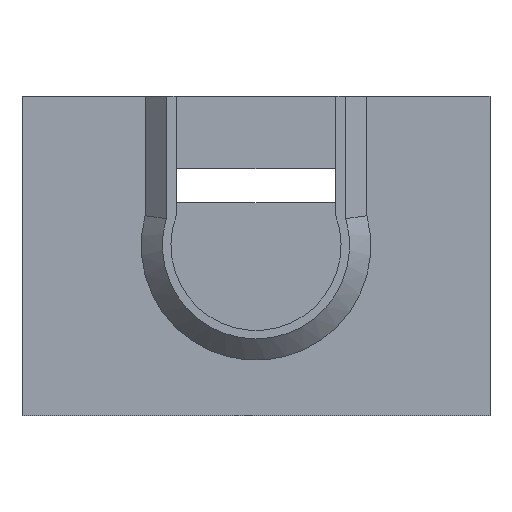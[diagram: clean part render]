
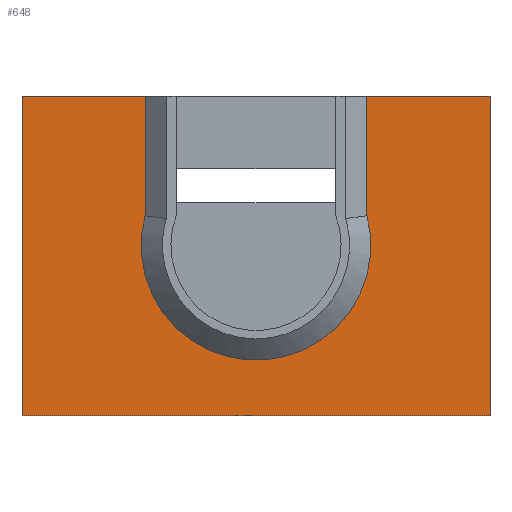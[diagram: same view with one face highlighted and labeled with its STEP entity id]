
A CAD part, left-side view. The second image highlights one B-rep face of the part: STEP entity #648.
In plain terms, the highlighted planar face has unit normal (-1, 0, 0).
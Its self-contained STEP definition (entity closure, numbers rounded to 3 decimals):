
#22 = VERTEX_POINT('',#23);
#23 = CARTESIAN_POINT('',(-14.,5.218,5.));
#32 = PLANE('',#33);
#33 = AXIS2_PLACEMENT_3D('',#34,#35,#36);
#34 = CARTESIAN_POINT('',(-6.652,0.,5.));
#35 = DIRECTION('',(0.,0.,1.));
#36 = DIRECTION('',(0.,1.,0.));
#44 = PLANE('',#45);
#45 = AXIS2_PLACEMENT_3D('',#46,#47,#48);
#46 = CARTESIAN_POINT('',(-14.,5.218,5.));
#47 = DIRECTION('',(-0.,-1.,-0.));
#48 = DIRECTION('',(0.,0.,-1.));
#355 = VERTEX_POINT('',#356);
#356 = CARTESIAN_POINT('',(-14.,-5.218,5.));
#370 = PLANE('',#371);
#371 = AXIS2_PLACEMENT_3D('',#372,#373,#374);
#372 = CARTESIAN_POINT('',(-14.,-5.218,5.));
#373 = DIRECTION('',(-0.,-1.,-0.));
#374 = DIRECTION('',(0.,0.,-1.));
#382 = EDGE_CURVE('',#355,#383,#385,.T.);
#383 = VERTEX_POINT('',#384);
#384 = CARTESIAN_POINT('',(-14.,-11.,5.));
#385 = SURFACE_CURVE('',#386,(#390,#397),.PCURVE_S1.);
#386 = LINE('',#387,#388);
#387 = CARTESIAN_POINT('',(-14.,11.,5.));
#388 = VECTOR('',#389,1.);
#389 = DIRECTION('',(0.,-1.,0.));
#390 = PCURVE('',#32,#391);
#391 = DEFINITIONAL_REPRESENTATION('',(#392),#396);
#392 = LINE('',#393,#394);
#393 = CARTESIAN_POINT('',(11.,7.348));
#394 = VECTOR('',#395,1.);
#395 = DIRECTION('',(-1.,0.));
#396 = ( GEOMETRIC_REPRESENTATION_CONTEXT(2) 
PARAMETRIC_REPRESENTATION_CONTEXT() REPRESENTATION_CONTEXT('2D SPACE',''
  ) );
#397 = PCURVE('',#398,#403);
#398 = PLANE('',#399);
#399 = AXIS2_PLACEMENT_3D('',#400,#401,#402);
#400 = CARTESIAN_POINT('',(-14.,11.,-10.));
#401 = DIRECTION('',(-1.,0.,0.));
#402 = DIRECTION('',(0.,0.,1.));
#403 = DEFINITIONAL_REPRESENTATION('',(#404),#408);
#404 = LINE('',#405,#406);
#405 = CARTESIAN_POINT('',(15.,0.));
#406 = VECTOR('',#407,1.);
#407 = DIRECTION('',(0.,-1.));
#408 = ( GEOMETRIC_REPRESENTATION_CONTEXT(2) 
PARAMETRIC_REPRESENTATION_CONTEXT() REPRESENTATION_CONTEXT('2D SPACE',''
  ) );
#426 = PLANE('',#427);
#427 = AXIS2_PLACEMENT_3D('',#428,#429,#430);
#428 = CARTESIAN_POINT('',(-7.,-11.,-2.5));
#429 = DIRECTION('',(0.,1.,0.));
#430 = DIRECTION('',(0.,0.,1.));
#467 = VERTEX_POINT('',#468);
#468 = CARTESIAN_POINT('',(-14.,11.,5.));
#482 = PLANE('',#483);
#483 = AXIS2_PLACEMENT_3D('',#484,#485,#486);
#484 = CARTESIAN_POINT('',(-7.,11.,-2.5));
#485 = DIRECTION('',(0.,1.,0.));
#486 = DIRECTION('',(0.,0.,1.));
#494 = EDGE_CURVE('',#467,#22,#495,.T.);
#495 = SURFACE_CURVE('',#496,(#500,#507),.PCURVE_S1.);
#496 = LINE('',#497,#498);
#497 = CARTESIAN_POINT('',(-14.,11.,5.));
#498 = VECTOR('',#499,1.);
#499 = DIRECTION('',(0.,-1.,0.));
#500 = PCURVE('',#32,#501);
#501 = DEFINITIONAL_REPRESENTATION('',(#502),#506);
#502 = LINE('',#503,#504);
#503 = CARTESIAN_POINT('',(11.,7.348));
#504 = VECTOR('',#505,1.);
#505 = DIRECTION('',(-1.,0.));
#506 = ( GEOMETRIC_REPRESENTATION_CONTEXT(2) 
PARAMETRIC_REPRESENTATION_CONTEXT() REPRESENTATION_CONTEXT('2D SPACE',''
  ) );
#507 = PCURVE('',#398,#508);
#508 = DEFINITIONAL_REPRESENTATION('',(#509),#513);
#509 = LINE('',#510,#511);
#510 = CARTESIAN_POINT('',(15.,0.));
#511 = VECTOR('',#512,1.);
#512 = DIRECTION('',(0.,-1.));
#513 = ( GEOMETRIC_REPRESENTATION_CONTEXT(2) 
PARAMETRIC_REPRESENTATION_CONTEXT() REPRESENTATION_CONTEXT('2D SPACE',''
  ) );
#543 = VERTEX_POINT('',#544);
#544 = CARTESIAN_POINT('',(-14.,5.218,-0.608));
#558 = CYLINDRICAL_SURFACE('',#559,5.4);
#559 = AXIS2_PLACEMENT_3D('',#560,#561,#562);
#560 = CARTESIAN_POINT('',(-14.,0.,-2.));
#561 = DIRECTION('',(1.,0.,0.));
#562 = DIRECTION('',(0.,-1.,0.));
#570 = EDGE_CURVE('',#22,#543,#571,.T.);
#571 = SURFACE_CURVE('',#572,(#576,#583),.PCURVE_S1.);
#572 = LINE('',#573,#574);
#573 = CARTESIAN_POINT('',(-14.,5.218,5.));
#574 = VECTOR('',#575,1.);
#575 = DIRECTION('',(0.,0.,-1.));
#576 = PCURVE('',#44,#577);
#577 = DEFINITIONAL_REPRESENTATION('',(#578),#582);
#578 = LINE('',#579,#580);
#579 = CARTESIAN_POINT('',(0.,0.));
#580 = VECTOR('',#581,1.);
#581 = DIRECTION('',(1.,0.));
#582 = ( GEOMETRIC_REPRESENTATION_CONTEXT(2) 
PARAMETRIC_REPRESENTATION_CONTEXT() REPRESENTATION_CONTEXT('2D SPACE',''
  ) );
#583 = PCURVE('',#398,#584);
#584 = DEFINITIONAL_REPRESENTATION('',(#585),#589);
#585 = LINE('',#586,#587);
#586 = CARTESIAN_POINT('',(15.,-5.782));
#587 = VECTOR('',#588,1.);
#588 = DIRECTION('',(-1.,0.));
#589 = ( GEOMETRIC_REPRESENTATION_CONTEXT(2) 
PARAMETRIC_REPRESENTATION_CONTEXT() REPRESENTATION_CONTEXT('2D SPACE',''
  ) );
#648 = ADVANCED_FACE('',(#649),#398,.T.);
#649 = FACE_BOUND('',#650,.T.);
#650 = EDGE_LOOP('',(#651,#674,#702,#723,#724,#747,#769,#770));
#651 = ORIENTED_EDGE('',*,*,#652,.F.);
#652 = EDGE_CURVE('',#653,#467,#655,.T.);
#653 = VERTEX_POINT('',#654);
#654 = CARTESIAN_POINT('',(-14.,11.,-10.));
#655 = SURFACE_CURVE('',#656,(#660,#667),.PCURVE_S1.);
#656 = LINE('',#657,#658);
#657 = CARTESIAN_POINT('',(-14.,11.,-10.));
#658 = VECTOR('',#659,1.);
#659 = DIRECTION('',(0.,0.,1.));
#660 = PCURVE('',#398,#661);
#661 = DEFINITIONAL_REPRESENTATION('',(#662),#666);
#662 = LINE('',#663,#664);
#663 = CARTESIAN_POINT('',(0.,0.));
#664 = VECTOR('',#665,1.);
#665 = DIRECTION('',(1.,0.));
#666 = ( GEOMETRIC_REPRESENTATION_CONTEXT(2) 
PARAMETRIC_REPRESENTATION_CONTEXT() REPRESENTATION_CONTEXT('2D SPACE',''
  ) );
#667 = PCURVE('',#482,#668);
#668 = DEFINITIONAL_REPRESENTATION('',(#669),#673);
#669 = LINE('',#670,#671);
#670 = CARTESIAN_POINT('',(-7.5,-7.));
#671 = VECTOR('',#672,1.);
#672 = DIRECTION('',(1.,0.));
#673 = ( GEOMETRIC_REPRESENTATION_CONTEXT(2) 
PARAMETRIC_REPRESENTATION_CONTEXT() REPRESENTATION_CONTEXT('2D SPACE',''
  ) );
#674 = ORIENTED_EDGE('',*,*,#675,.T.);
#675 = EDGE_CURVE('',#653,#676,#678,.T.);
#676 = VERTEX_POINT('',#677);
#677 = CARTESIAN_POINT('',(-14.,-11.,-10.));
#678 = SURFACE_CURVE('',#679,(#683,#690),.PCURVE_S1.);
#679 = LINE('',#680,#681);
#680 = CARTESIAN_POINT('',(-14.,11.,-10.));
#681 = VECTOR('',#682,1.);
#682 = DIRECTION('',(0.,-1.,0.));
#683 = PCURVE('',#398,#684);
#684 = DEFINITIONAL_REPRESENTATION('',(#685),#689);
#685 = LINE('',#686,#687);
#686 = CARTESIAN_POINT('',(0.,0.));
#687 = VECTOR('',#688,1.);
#688 = DIRECTION('',(0.,-1.));
#689 = ( GEOMETRIC_REPRESENTATION_CONTEXT(2) 
PARAMETRIC_REPRESENTATION_CONTEXT() REPRESENTATION_CONTEXT('2D SPACE',''
  ) );
#690 = PCURVE('',#691,#696);
#691 = PLANE('',#692);
#692 = AXIS2_PLACEMENT_3D('',#693,#694,#695);
#693 = CARTESIAN_POINT('',(-5.476,0.,-10.));
#694 = DIRECTION('',(-0.,-0.,-1.));
#695 = DIRECTION('',(-1.,0.,0.));
#696 = DEFINITIONAL_REPRESENTATION('',(#697),#701);
#697 = LINE('',#698,#699);
#698 = CARTESIAN_POINT('',(8.524,11.));
#699 = VECTOR('',#700,1.);
#700 = DIRECTION('',(0.,-1.));
#701 = ( GEOMETRIC_REPRESENTATION_CONTEXT(2) 
PARAMETRIC_REPRESENTATION_CONTEXT() REPRESENTATION_CONTEXT('2D SPACE',''
  ) );
#702 = ORIENTED_EDGE('',*,*,#703,.T.);
#703 = EDGE_CURVE('',#676,#383,#704,.T.);
#704 = SURFACE_CURVE('',#705,(#709,#716),.PCURVE_S1.);
#705 = LINE('',#706,#707);
#706 = CARTESIAN_POINT('',(-14.,-11.,-10.));
#707 = VECTOR('',#708,1.);
#708 = DIRECTION('',(0.,0.,1.));
#709 = PCURVE('',#398,#710);
#710 = DEFINITIONAL_REPRESENTATION('',(#711),#715);
#711 = LINE('',#712,#713);
#712 = CARTESIAN_POINT('',(0.,-22.));
#713 = VECTOR('',#714,1.);
#714 = DIRECTION('',(1.,0.));
#715 = ( GEOMETRIC_REPRESENTATION_CONTEXT(2) 
PARAMETRIC_REPRESENTATION_CONTEXT() REPRESENTATION_CONTEXT('2D SPACE',''
  ) );
#716 = PCURVE('',#426,#717);
#717 = DEFINITIONAL_REPRESENTATION('',(#718),#722);
#718 = LINE('',#719,#720);
#719 = CARTESIAN_POINT('',(-7.5,-7.));
#720 = VECTOR('',#721,1.);
#721 = DIRECTION('',(1.,0.));
#722 = ( GEOMETRIC_REPRESENTATION_CONTEXT(2) 
PARAMETRIC_REPRESENTATION_CONTEXT() REPRESENTATION_CONTEXT('2D SPACE',''
  ) );
#723 = ORIENTED_EDGE('',*,*,#382,.F.);
#724 = ORIENTED_EDGE('',*,*,#725,.T.);
#725 = EDGE_CURVE('',#355,#726,#728,.T.);
#726 = VERTEX_POINT('',#727);
#727 = CARTESIAN_POINT('',(-14.,-5.218,-0.608));
#728 = SURFACE_CURVE('',#729,(#733,#740),.PCURVE_S1.);
#729 = LINE('',#730,#731);
#730 = CARTESIAN_POINT('',(-14.,-5.218,5.));
#731 = VECTOR('',#732,1.);
#732 = DIRECTION('',(0.,0.,-1.));
#733 = PCURVE('',#398,#734);
#734 = DEFINITIONAL_REPRESENTATION('',(#735),#739);
#735 = LINE('',#736,#737);
#736 = CARTESIAN_POINT('',(15.,-16.218));
#737 = VECTOR('',#738,1.);
#738 = DIRECTION('',(-1.,0.));
#739 = ( GEOMETRIC_REPRESENTATION_CONTEXT(2) 
PARAMETRIC_REPRESENTATION_CONTEXT() REPRESENTATION_CONTEXT('2D SPACE',''
  ) );
#740 = PCURVE('',#370,#741);
#741 = DEFINITIONAL_REPRESENTATION('',(#742),#746);
#742 = LINE('',#743,#744);
#743 = CARTESIAN_POINT('',(0.,0.));
#744 = VECTOR('',#745,1.);
#745 = DIRECTION('',(1.,0.));
#746 = ( GEOMETRIC_REPRESENTATION_CONTEXT(2) 
PARAMETRIC_REPRESENTATION_CONTEXT() REPRESENTATION_CONTEXT('2D SPACE',''
  ) );
#747 = ORIENTED_EDGE('',*,*,#748,.F.);
#748 = EDGE_CURVE('',#543,#726,#749,.T.);
#749 = SURFACE_CURVE('',#750,(#755,#762),.PCURVE_S1.);
#750 = CIRCLE('',#751,5.4);
#751 = AXIS2_PLACEMENT_3D('',#752,#753,#754);
#752 = CARTESIAN_POINT('',(-14.,0.,-2.));
#753 = DIRECTION('',(-1.,0.,0.));
#754 = DIRECTION('',(0.,-1.,0.));
#755 = PCURVE('',#398,#756);
#756 = DEFINITIONAL_REPRESENTATION('',(#757),#761);
#757 = CIRCLE('',#758,5.4);
#758 = AXIS2_PLACEMENT_2D('',#759,#760);
#759 = CARTESIAN_POINT('',(8.,-11.));
#760 = DIRECTION('',(0.,-1.));
#761 = ( GEOMETRIC_REPRESENTATION_CONTEXT(2) 
PARAMETRIC_REPRESENTATION_CONTEXT() REPRESENTATION_CONTEXT('2D SPACE',''
  ) );
#762 = PCURVE('',#558,#763);
#763 = DEFINITIONAL_REPRESENTATION('',(#764),#768);
#764 = LINE('',#765,#766);
#765 = CARTESIAN_POINT('',(-0.,0.));
#766 = VECTOR('',#767,1.);
#767 = DIRECTION('',(-1.,0.));
#768 = ( GEOMETRIC_REPRESENTATION_CONTEXT(2) 
PARAMETRIC_REPRESENTATION_CONTEXT() REPRESENTATION_CONTEXT('2D SPACE',''
  ) );
#769 = ORIENTED_EDGE('',*,*,#570,.F.);
#770 = ORIENTED_EDGE('',*,*,#494,.F.);
